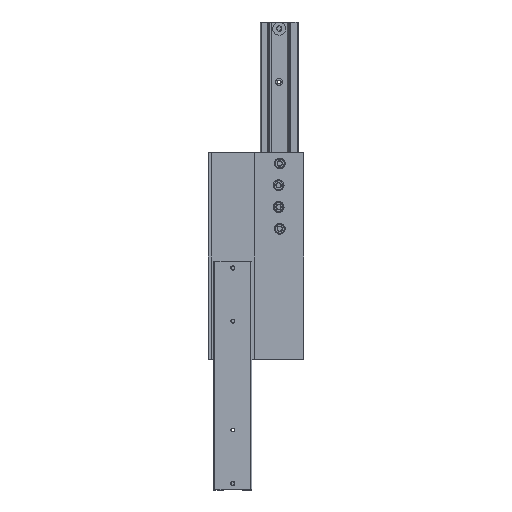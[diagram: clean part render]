
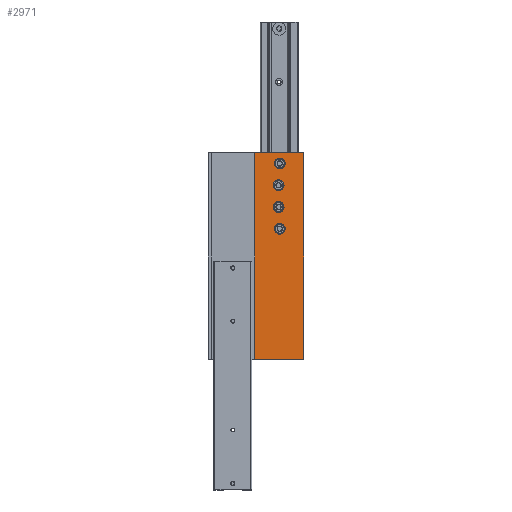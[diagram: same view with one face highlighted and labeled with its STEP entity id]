
A CAD part, left-side view. The second image highlights one B-rep face of the part: STEP entity #2971.
In plain terms, the highlighted planar face has unit normal (-1, 0, 0).
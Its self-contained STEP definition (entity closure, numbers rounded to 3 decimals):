
#37 = EDGE_CURVE ( 'NONE', #8124, #4383, #2740, .T. ) ;
#90 = CARTESIAN_POINT ( 'NONE',  ( 0., 0., 0. ) ) ;
#258 = EDGE_CURVE ( 'NONE', #1845, #1845, #7167, .T. ) ;
#277 = DIRECTION ( 'NONE',  ( 0., 1., 0. ) ) ;
#897 = DIRECTION ( 'NONE',  ( 0., 0., -1. ) ) ;
#915 = FACE_BOUND ( 'NONE', #6486, .T. ) ;
#931 = DIRECTION ( 'NONE',  ( 0., 0., 1. ) ) ;
#957 = PLANE ( 'NONE',  #5932 ) ;
#1309 = CARTESIAN_POINT ( 'NONE',  ( 0., 23.1, 165. ) ) ;
#1619 = CIRCLE ( 'NONE', #4788, 5. ) ;
#1759 = DIRECTION ( 'NONE',  ( 0., 0., 1. ) ) ;
#1845 = VERTEX_POINT ( 'NONE', #1309 ) ;
#1945 = DIRECTION ( 'NONE',  ( -1., 0., 0. ) ) ;
#1978 = ORIENTED_EDGE ( 'NONE', *, *, #7115, .F. ) ;
#2035 = DIRECTION ( 'NONE',  ( -1., 0., 0. ) ) ;
#2254 = VERTEX_POINT ( 'NONE', #4579 ) ;
#2258 = ORIENTED_EDGE ( 'NONE', *, *, #7381, .F. ) ;
#2319 = AXIS2_PLACEMENT_3D ( 'NONE', #3710, #6494, #3165 ) ;
#2354 = DIRECTION ( 'NONE',  ( -1., 0., 0. ) ) ;
#2572 = EDGE_LOOP ( 'NONE', ( #4732 ) ) ;
#2621 = CARTESIAN_POINT ( 'NONE',  ( 0., 22.1, 180. ) ) ;
#2718 = EDGE_CURVE ( 'NONE', #2888, #2888, #1619, .T. ) ;
#2740 = LINE ( 'NONE', #6113, #4997 ) ;
#2830 = ORIENTED_EDGE ( 'NONE', *, *, #5201, .F. ) ;
#2888 = VERTEX_POINT ( 'NONE', #7701 ) ;
#2971 = ADVANCED_FACE ( 'NONE', ( #4464, #915, #5177, #4385, #3672 ), #957, .T. ) ;
#2979 = CARTESIAN_POINT ( 'NONE',  ( 0., 0., 190. ) ) ;
#3150 = VERTEX_POINT ( 'NONE', #90 ) ;
#3165 = DIRECTION ( 'NONE',  ( 0., 0., 1. ) ) ;
#3285 = VECTOR ( 'NONE', #7682, 1000. ) ;
#3366 = VERTEX_POINT ( 'NONE', #7443 ) ;
#3565 = EDGE_CURVE ( 'NONE', #7423, #8124, #7505, .T. ) ;
#3567 = EDGE_LOOP ( 'NONE', ( #6787 ) ) ;
#3672 = FACE_OUTER_BOUND ( 'NONE', #5671, .T. ) ;
#3687 = CARTESIAN_POINT ( 'NONE',  ( 0., 23.1, 160. ) ) ;
#3710 = CARTESIAN_POINT ( 'NONE',  ( 0., 22.1, 120. ) ) ;
#3726 = CIRCLE ( 'NONE', #7156, 5. ) ;
#3762 = CIRCLE ( 'NONE', #2319, 5. ) ;
#4024 = AXIS2_PLACEMENT_3D ( 'NONE', #3687, #7812, #931 ) ;
#4345 = CARTESIAN_POINT ( 'NONE',  ( 0., 0., 190. ) ) ;
#4383 = VERTEX_POINT ( 'NONE', #7425 ) ;
#4385 = FACE_BOUND ( 'NONE', #8446, .T. ) ;
#4408 = ORIENTED_EDGE ( 'NONE', *, *, #37, .T. ) ;
#4464 = FACE_BOUND ( 'NONE', #2572, .T. ) ;
#4579 = CARTESIAN_POINT ( 'NONE',  ( 0., 22.1, 185. ) ) ;
#4709 = ORIENTED_EDGE ( 'NONE', *, *, #2718, .F. ) ;
#4732 = ORIENTED_EDGE ( 'NONE', *, *, #7090, .F. ) ;
#4788 = AXIS2_PLACEMENT_3D ( 'NONE', #6052, #1945, #7433 ) ;
#4997 = VECTOR ( 'NONE', #7370, 1000. ) ;
#5177 = FACE_BOUND ( 'NONE', #3567, .T. ) ;
#5201 = EDGE_CURVE ( 'NONE', #2254, #2254, #3726, .T. ) ;
#5335 = CARTESIAN_POINT ( 'NONE',  ( 0., 45.2, 190. ) ) ;
#5433 = ORIENTED_EDGE ( 'NONE', *, *, #3565, .T. ) ;
#5671 = EDGE_LOOP ( 'NONE', ( #1978, #2258, #5433, #4408 ) ) ;
#5932 = AXIS2_PLACEMENT_3D ( 'NONE', #4345, #2354, #1759 ) ;
#6052 = CARTESIAN_POINT ( 'NONE',  ( 0., 23.1, 140. ) ) ;
#6113 = CARTESIAN_POINT ( 'NONE',  ( 0., 45.2, 190. ) ) ;
#6348 = CARTESIAN_POINT ( 'NONE',  ( 0., 0., 190. ) ) ;
#6419 = CARTESIAN_POINT ( 'NONE',  ( 0., 0., 190. ) ) ;
#6453 = LINE ( 'NONE', #7800, #8515 ) ;
#6486 = EDGE_LOOP ( 'NONE', ( #4709 ) ) ;
#6494 = DIRECTION ( 'NONE',  ( -1., 0., 0. ) ) ;
#6787 = ORIENTED_EDGE ( 'NONE', *, *, #258, .F. ) ;
#7053 = LINE ( 'NONE', #6348, #7348 ) ;
#7090 = EDGE_CURVE ( 'NONE', #3366, #3366, #3762, .T. ) ;
#7115 = EDGE_CURVE ( 'NONE', #3150, #4383, #6453, .T. ) ;
#7156 = AXIS2_PLACEMENT_3D ( 'NONE', #2621, #2035, #8115 ) ;
#7167 = CIRCLE ( 'NONE', #4024, 5. ) ;
#7348 = VECTOR ( 'NONE', #897, 1000. ) ;
#7370 = DIRECTION ( 'NONE',  ( 0., 0., -1. ) ) ;
#7381 = EDGE_CURVE ( 'NONE', #7423, #3150, #7053, .T. ) ;
#7423 = VERTEX_POINT ( 'NONE', #2979 ) ;
#7425 = CARTESIAN_POINT ( 'NONE',  ( 0., 45.2, 0. ) ) ;
#7433 = DIRECTION ( 'NONE',  ( 0., 0., 1. ) ) ;
#7443 = CARTESIAN_POINT ( 'NONE',  ( 0., 22.1, 125. ) ) ;
#7505 = LINE ( 'NONE', #6419, #3285 ) ;
#7682 = DIRECTION ( 'NONE',  ( 0., 1., 0. ) ) ;
#7701 = CARTESIAN_POINT ( 'NONE',  ( 0., 23.1, 145. ) ) ;
#7800 = CARTESIAN_POINT ( 'NONE',  ( 0., 0., 0. ) ) ;
#7812 = DIRECTION ( 'NONE',  ( -1., 0., 0. ) ) ;
#8115 = DIRECTION ( 'NONE',  ( 0., 0., 1. ) ) ;
#8124 = VERTEX_POINT ( 'NONE', #5335 ) ;
#8446 = EDGE_LOOP ( 'NONE', ( #2830 ) ) ;
#8515 = VECTOR ( 'NONE', #277, 1000. ) ;
